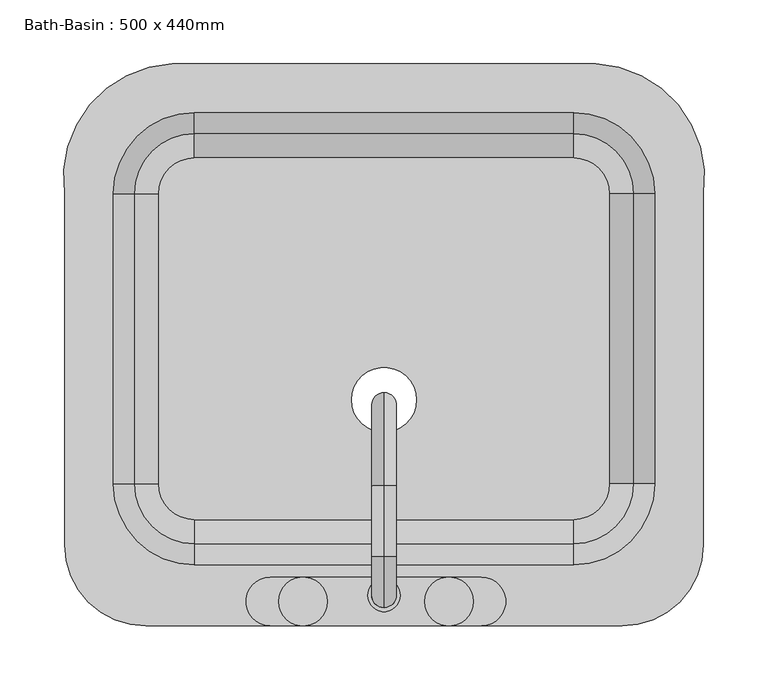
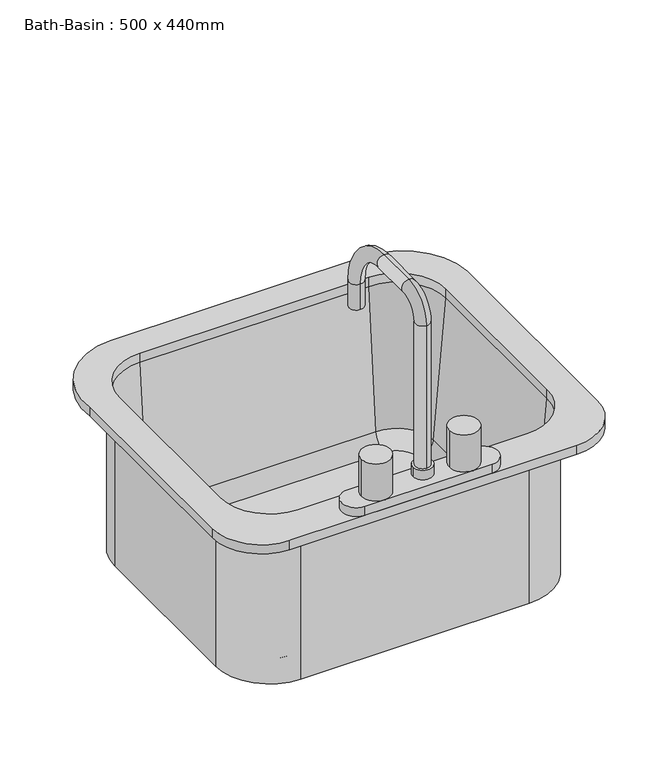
"""IFC4 building model written with IfcOpenShell, lengths in millimetres: flow terminal geometry, Bath-Basin : 500 x 440mm."""

from ifc_helpers import new_model, si_unit, point, frame, origin, place, context, project, spatial, polyline, circle_curve, ellipse_curve, trimmed, source, transform, mapped, element, save
from ifc_brep_helpers import plane_surface, cylinder_surface, revolved_surface, advanced_brep


def bath_basin_500_x_440mm_50045a32(model_context):
    return source(origin(), model_context, "Body", "AdvancedBrep", [
        advanced_brep(
        [(233.9392406, -69.0204011, 546.1), (233.9392406, -69.0204011, 762.0), (164.0892406, -138.8704011, 762.0), (164.0892406, -138.8704011, 546.1), (-132.7107594, -138.8704011, 546.1), (-202.5607594, -69.0204011, 546.1), (-202.5607594, 158.2545989, 546.1), (-132.7107594, 228.1045989, 546.1), (164.0892406, 228.1045989, 546.1), (233.9392406, 158.2545989, 546.1), (-9.7107594, -3.175, 546.1), (41.0892406, -3.175, 546.1), (192.0776588, -69.0204011, 555.625), (192.0776588, 158.2545989, 555.625), (164.0892406, 186.2430171, 555.625), (-132.7107594, 186.2430171, 555.625), (-160.6991776, 158.2545989, 555.625), (-160.6991776, -69.0204011, 555.625), (-132.7107594, -97.0088193, 555.625), (164.0892406, -97.0088193, 555.625), (-9.7107594, -3.175, 555.625), (41.0892406, -3.175, 555.625), (164.0892406, -115.9863283, 573.0146831), (211.0551678, -69.0204011, 573.0146831), (164.0892406, -132.5204011, 762.0), (227.5892406, -69.0204011, 762.0), (233.9392406, 158.2545989, 762.0), (211.0551678, 158.2545989, 573.0146831), (227.5892406, 158.2545989, 762.0), (164.0892406, 228.1045989, 762.0), (164.0892406, 205.2205261, 573.0146831), (164.0892406, 221.7545989, 762.0), (-132.7107594, 228.1045989, 762.0), (-132.7107594, 205.2205261, 573.0146831), (-132.7107594, 221.7545989, 762.0), (-202.5607594, 158.2545989, 762.0), (-179.6766866, 158.2545989, 573.0146831), (-196.2107594, 158.2545989, 762.0), (-202.5607594, -69.0204011, 762.0), (-179.6766866, -69.0204011, 573.0146831), (-196.2107594, -69.0204011, 762.0), (-132.7107594, -138.8704011, 762.0), (-132.7107594, -115.9863283, 573.0146831), (-132.7107594, -132.5204011, 762.0), (-149.9606923, 259.8545989, 774.7), (-234.3107593, 158.2545982, 774.7), (-234.3107593, -116.6454011, 774.7), (-170.8107593, -180.1454011, 774.7), (202.1892406, -180.1454011, 774.7), (265.6892406, -116.6454011, 774.7), (265.6892406, 158.2545989, 774.7), (181.3391735, 259.8545989, 774.7), (164.0892406, -132.5204011, 774.7), (-132.7107594, -132.5204011, 774.7), (-196.2107594, -69.0204011, 774.7), (-196.2107594, 158.2545989, 774.7), (-132.7107594, 221.7545989, 774.7), (164.0892406, 221.7545989, 774.7), (227.5892406, 158.2545989, 774.7), (227.5892406, -69.0204011, 774.7), (-149.9606923, 259.8545989, 762.0), (181.3391735, 259.8545989, 762.0), (265.6892406, 158.2545989, 762.0), (265.6892406, -116.6454011, 762.0), (202.1892406, -180.1454011, 762.0), (-170.8107593, -180.1454011, 762.0), (-234.3107593, -116.6454011, 762.0), (-234.3107593, 158.2545982, 762.0)],
        [
            (0, 1),
            (1, 2, circle_curve(frame((164.0892406, -69.0204011, 762.0), z_axis=(0.0, 0.0, -1.0), x_axis=(0.0, -1.0, 0.0)), 69.85)),
            (2, 3),
            (3, 0, circle_curve(frame((164.0892406, -69.0204011, 546.1), z_axis=(0.0, 0.0, 1.0), x_axis=(0.0, -1.0, 0.0)), 69.85)),
            (3, 4),
            (4, 5, circle_curve(frame((-132.7107594, -69.0204011, 546.1), z_axis=(0.0, 0.0, -1.0), x_axis=(-1.0, 0.0, 0.0)), 69.85)),
            (5, 6),
            (6, 7, circle_curve(frame((-132.7107594, 158.2545989, 546.1), z_axis=(0.0, 0.0, -1.0), x_axis=(0.0, 1.0, 0.0)), 69.85)),
            (7, 8),
            (8, 9, circle_curve(frame((164.0892406, 158.2545989, 546.1), z_axis=(0.0, 0.0, -1.0), x_axis=(1.0, 0.0, 0.0)), 69.85)),
            (9, 0),
            (10, 11, circle_curve(frame((15.6892406, -3.175, 546.1), z_axis=(0.0, 0.0, 1.0), x_axis=(1.0, 0.0, 0.0)), 25.4)),
            (11, 10, circle_curve(frame((15.6892406, -3.175, 546.1), z_axis=(0.0, 0.0, 1.0), x_axis=(1.0, 0.0, 0.0)), 25.4)),
            (12, 13),
            (13, 14, circle_curve(frame((164.0892406, 158.2545989, 555.625), z_axis=(0.0, 0.0, 1.0), x_axis=(1.0, 0.0, 0.0)), 27.9884182)),
            (14, 15),
            (15, 16, circle_curve(frame((-132.7107594, 158.2545989, 555.625), z_axis=(0.0, 0.0, 1.0), x_axis=(0.0, 1.0, 0.0)), 27.9884182)),
            (16, 17),
            (17, 18, circle_curve(frame((-132.7107594, -69.0204011, 555.625), z_axis=(0.0, 0.0, 1.0), x_axis=(-1.0, 0.0, 0.0)), 27.9884182)),
            (18, 19),
            (19, 12, circle_curve(frame((164.0892406, -69.0204011, 555.625), z_axis=(0.0, 0.0, 1.0), x_axis=(0.0, -1.0, 0.0)), 27.9884182)),
            (20, 21, circle_curve(frame((15.6892406, -3.175, 555.625), z_axis=(0.0, 0.0, -1.0), x_axis=(1.0, 0.0, 0.0)), 25.4)),
            (21, 20, circle_curve(frame((15.6892406, -3.175, 555.625), z_axis=(0.0, 0.0, -1.0), x_axis=(1.0, 0.0, 0.0)), 25.4)),
            (19, 22, circle_curve(frame((164.0892406, -97.0088193, 574.675), z_axis=(-1.0, 0.0, 0.0), x_axis=(0.0, -1.0, 0.0)), 19.05)),
            (22, 23, circle_curve(frame((164.0892406, -69.0204011, 573.0146831), z_axis=(0.0, 0.0, 1.0), x_axis=(0.0, -1.0, 0.0)), 46.9659272)),
            (23, 12, circle_curve(frame((192.0776588, -69.0204011, 574.675), z_axis=(0.0, 1.0, 0.0), x_axis=(1.0, 0.0, 0.0)), 19.05)),
            (22, 24),
            (24, 25, circle_curve(frame((164.0892406, -69.0204011, 762.0), z_axis=(0.0, 0.0, 1.0), x_axis=(0.0, -1.0, 0.0)), 63.5)),
            (25, 23),
            (9, 26),
            (26, 1),
            (23, 27),
            (27, 13, circle_curve(frame((192.0776588, 158.2545989, 574.675), z_axis=(0.0, 1.0, 0.0), x_axis=(1.0, 0.0, 0.0)), 19.05)),
            (25, 28),
            (28, 27),
            (8, 29),
            (29, 26, circle_curve(frame((164.0892406, 158.2545989, 762.0), z_axis=(0.0, 0.0, -1.0), x_axis=(1.0, 0.0, 0.0)), 69.85)),
            (27, 30, circle_curve(frame((164.0892406, 158.2545989, 573.0146831), z_axis=(0.0, 0.0, 1.0), x_axis=(1.0, 0.0, 0.0)), 46.9659272)),
            (30, 14, circle_curve(frame((164.0892406, 186.2430171, 574.675), z_axis=(-1.0, 0.0, 0.0), x_axis=(0.0, 1.0, 0.0)), 19.05)),
            (28, 31, circle_curve(frame((164.0892406, 158.2545989, 762.0), z_axis=(0.0, 0.0, 1.0), x_axis=(1.0, 0.0, 0.0)), 63.5)),
            (31, 30),
            (7, 32),
            (32, 29),
            (30, 33),
            (33, 15, circle_curve(frame((-132.7107594, 186.2430171, 574.675), z_axis=(-1.0, 0.0, 0.0), x_axis=(0.0, 1.0, 0.0)), 19.05)),
            (31, 34),
            (34, 33),
            (6, 35),
            (35, 32, circle_curve(frame((-132.7107594, 158.2545989, 762.0), z_axis=(0.0, 0.0, -1.0), x_axis=(0.0, 1.0, 0.0)), 69.85)),
            (33, 36, circle_curve(frame((-132.7107594, 158.2545989, 573.0146831), z_axis=(0.0, 0.0, 1.0), x_axis=(0.0, 1.0, 0.0)), 46.9659272)),
            (36, 16, circle_curve(frame((-160.6991776, 158.2545989, 574.675), z_axis=(0.0, -1.0, 0.0), x_axis=(-1.0, 0.0, 0.0)), 19.05)),
            (34, 37, circle_curve(frame((-132.7107594, 158.2545989, 762.0), z_axis=(0.0, 0.0, 1.0), x_axis=(0.0, 1.0, 0.0)), 63.5)),
            (37, 36),
            (5, 38),
            (38, 35),
            (36, 39),
            (39, 17, circle_curve(frame((-160.6991776, -69.0204011, 574.675), z_axis=(0.0, -1.0, 0.0), x_axis=(-1.0, 0.0, 0.0)), 19.05)),
            (37, 40),
            (40, 39),
            (4, 41),
            (41, 38, circle_curve(frame((-132.7107594, -69.0204011, 762.0), z_axis=(0.0, 0.0, -1.0), x_axis=(-1.0, 0.0, 0.0)), 69.85)),
            (39, 42, circle_curve(frame((-132.7107594, -69.0204011, 573.0146831), z_axis=(0.0, 0.0, 1.0), x_axis=(-1.0, 0.0, 0.0)), 46.9659272)),
            (42, 18, circle_curve(frame((-132.7107594, -97.0088193, 574.675), z_axis=(1.0, 0.0, 0.0), x_axis=(0.0, -1.0, 0.0)), 19.05)),
            (40, 43, circle_curve(frame((-132.7107594, -69.0204011, 762.0), z_axis=(0.0, 0.0, 1.0), x_axis=(-1.0, 0.0, 0.0)), 63.5)),
            (43, 42),
            (2, 41),
            (42, 22),
            (43, 24),
            (21, 11),
            (10, 20),
            (44, 45, circle_curve(frame((-146.1534746, 170.8793432, 774.7), z_axis=(0.0, 0.0, 1.0), x_axis=(1.0, 0.0, 0.0)), 89.0566732)),
            (45, 46),
            (46, 47, circle_curve(frame((-170.8107593, -116.6454011, 774.7), z_axis=(0.0, 0.0, 1.0), x_axis=(1.0, 0.0, 0.0)), 63.5)),
            (47, 48),
            (48, 49, circle_curve(frame((202.1892406, -116.6454011, 774.7), z_axis=(0.0, 0.0, 1.0), x_axis=(1.0, 0.0, 0.0)), 63.5)),
            (49, 50),
            (50, 51, circle_curve(frame((177.5319557, 170.8793432, 774.7), z_axis=(0.0, 0.0, 1.0), x_axis=(1.0, 0.0, 0.0)), 89.0566732)),
            (51, 44),
            (52, 53),
            (53, 54, circle_curve(frame((-132.7107594, -69.0204011, 774.7), z_axis=(0.0, 0.0, -1.0), x_axis=(1.0, 0.0, 0.0)), 63.5)),
            (54, 55),
            (55, 56, circle_curve(frame((-132.7107594, 158.2545989, 774.7), z_axis=(0.0, 0.0, -1.0), x_axis=(1.0, 0.0, 0.0)), 63.5)),
            (56, 57),
            (57, 58, circle_curve(frame((164.0892406, 158.2545989, 774.7), z_axis=(0.0, 0.0, -1.0), x_axis=(1.0, 0.0, 0.0)), 63.5)),
            (58, 59),
            (59, 52, circle_curve(frame((164.0892406, -69.0204011, 774.7), z_axis=(0.0, 0.0, -1.0), x_axis=(1.0, 0.0, 0.0)), 63.5)),
            (60, 61),
            (61, 62, circle_curve(frame((177.5319557, 170.8793432, 762.0), z_axis=(0.0, 0.0, -1.0), x_axis=(1.0, 0.0, 0.0)), 89.0566732)),
            (62, 63),
            (63, 64, circle_curve(frame((202.1892406, -116.6454011, 762.0), z_axis=(0.0, 0.0, -1.0), x_axis=(1.0, 0.0, 0.0)), 63.5)),
            (64, 65),
            (65, 66, circle_curve(frame((-170.8107593, -116.6454011, 762.0), z_axis=(0.0, 0.0, -1.0), x_axis=(1.0, 0.0, 0.0)), 63.5)),
            (66, 67),
            (67, 60, circle_curve(frame((-146.1534746, 170.8793432, 762.0), z_axis=(0.0, 0.0, -1.0), x_axis=(1.0, 0.0, 0.0)), 89.0566732)),
            (51, 61),
            (60, 44),
            (50, 62),
            (49, 63),
            (48, 64),
            (47, 65),
            (46, 66),
            (45, 67),
            (59, 25),
            (24, 52),
            (58, 28),
            (57, 31),
            (56, 34),
            (55, 37),
            (54, 40),
            (53, 43),
        ],
        [
            cylinder_surface(frame((164.0892406, -69.0204011, 0.0), z_axis=(0.0, 0.0, -1.0), x_axis=(0.0, -1.0, 0.0)), 69.85),
            plane_surface(frame((164.0892406, -69.0204011, 546.1), z_axis=(0.0, 0.0, -1.0), x_axis=(0.0, -1.0, 0.0))),
            plane_surface(frame((164.0892406, -69.0204011, 555.625), z_axis=(0.0, 0.0, 1.0), x_axis=(0.0, -1.0, 0.0))),
            revolved_surface(trimmed(ellipse_curve(frame((164.0892406, -97.0088193, 574.675), z_axis=(-1.0, 0.0, 0.0), x_axis=(0.0, -1.0, 0.0)), 19.05, 19.05), [point((164.0892406, -97.0088193, 555.625))], [point((164.0892406, -115.9863283, 573.0146831))], True, "CARTESIAN"), (164.0892406, -69.0204011, 0.0), (0.0, 0.0, -1.0)),
            revolved_surface(polyline([(164.0892406, -115.9863283, 573.0146831), (164.0892406, -132.5204011, 762.0)]), (164.0892406, -69.0204011, 0.0), (0.0, 0.0, -1.0)),
            plane_surface(frame((233.9392406, -69.0204011, 762.0), z_axis=(1.0, 0.0, 0.0), x_axis=(0.0, 1.0, 0.0))),
            revolved_surface(polyline([(211.1276588, 158.25459889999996, 574.675), (211.1276588, -69.0204011, 574.675)]), (192.0776588, -69.0204011, 574.675), (0.0, 1.0, 0.0)),
            plane_surface(frame((211.0551678, -69.0204011, 573.0146831), z_axis=(-0.9961946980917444, 0.0, 0.08715574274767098), x_axis=(0.0, 1.0, 0.0))),
            cylinder_surface(frame((164.0892406, 158.2545989, 0.0), z_axis=(0.0, 0.0, -1.0), x_axis=(1.0, 0.0, 0.0)), 69.85),
            revolved_surface(trimmed(ellipse_curve(frame((192.0776588, 158.2545989, 574.675), z_axis=(0.0, -1.0, 0.0), x_axis=(1.0, 0.0, 0.0)), 19.05, 19.05), [point((192.0776588, 158.2545989, 555.625))], [point((211.0551678, 158.2545989, 573.0146831))], True, "CARTESIAN"), (164.0892406, 158.2545989, 0.0), (0.0, 0.0, -1.0)),
            revolved_surface(polyline([(211.0551678, 158.2545989, 573.0146831), (227.5892406, 158.2545989, 762.0)]), (164.0892406, 158.2545989, 0.0), (0.0, 0.0, -1.0)),
            plane_surface(frame((164.0892406, 228.1045989, 762.0), z_axis=(0.0, 1.0, 0.0), x_axis=(-1.0, 0.0, 0.0))),
            revolved_surface(polyline([(-132.7107594, 205.29301710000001, 574.675), (164.0892406, 205.29301710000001, 574.675)]), (164.0892406, 186.2430171, 574.675), (-1.0, 0.0, 0.0)),
            plane_surface(frame((164.0892406, 205.2205261, 573.0146831), z_axis=(0.0, -0.9961946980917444, 0.08715574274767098), x_axis=(-1.0, 0.0, 0.0))),
            cylinder_surface(frame((-132.7107594, 158.2545989, 0.0), z_axis=(0.0, 0.0, -1.0), x_axis=(0.0, 1.0, 0.0)), 69.85),
            revolved_surface(trimmed(ellipse_curve(frame((-132.7107594, 186.2430171, 574.675), z_axis=(1.0, 0.0, 0.0), x_axis=(0.0, 1.0, 0.0)), 19.05, 19.05), [point((-132.7107594, 186.2430171, 555.625))], [point((-132.7107594, 205.2205261, 573.0146831))], True, "CARTESIAN"), (-132.7107594, 158.2545989, 0.0), (0.0, 0.0, -1.0)),
            revolved_surface(polyline([(-132.7107594, 205.2205261, 573.0146831), (-132.7107594, 221.7545989, 762.0)]), (-132.7107594, 158.2545989, 0.0), (0.0, 0.0, -1.0)),
            plane_surface(frame((-202.5607594, 158.2545989, 762.0), z_axis=(-1.0, 0.0, 0.0), x_axis=(0.0, -1.0, 0.0))),
            revolved_surface(polyline([(-179.74917760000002, -69.02040109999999, 574.675), (-179.74917760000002, 158.2545989, 574.675)]), (-160.6991776, 158.2545989, 574.675), (0.0, -1.0, 0.0)),
            plane_surface(frame((-179.6766866, 158.2545989, 573.0146831), z_axis=(0.9961946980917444, 0.0, 0.08715574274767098), x_axis=(0.0, -1.0, 0.0))),
            cylinder_surface(frame((-132.7107594, -69.0204011, 0.0), z_axis=(0.0, 0.0, -1.0), x_axis=(-1.0, 0.0, 0.0)), 69.85),
            revolved_surface(trimmed(ellipse_curve(frame((-160.6991776, -69.0204011, 574.675), z_axis=(0.0, 1.0, 0.0), x_axis=(-1.0, 0.0, 0.0)), 19.05, 19.05), [point((-160.6991776, -69.0204011, 555.625))], [point((-179.6766866, -69.0204011, 573.0146831))], True, "CARTESIAN"), (-132.7107594, -69.0204011, 0.0), (0.0, 0.0, -1.0)),
            revolved_surface(polyline([(-179.6766866, -69.0204011, 573.0146831), (-196.2107594, -69.0204011, 762.0)]), (-132.7107594, -69.0204011, 0.0), (0.0, 0.0, -1.0)),
            plane_surface(frame((-132.7107594, -138.8704011, 762.0), z_axis=(0.0, -1.0, 0.0), x_axis=(1.0, 0.0, 0.0))),
            revolved_surface(polyline([(164.0892406, -116.0588193, 574.675), (-132.7107594, -116.0588193, 574.675)]), (-132.7107594, -97.0088193, 574.675), (1.0, 0.0, 0.0)),
            plane_surface(frame((-132.7107594, -115.9863283, 573.0146831), z_axis=(0.0, 0.9961946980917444, 0.08715574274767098), x_axis=(1.0, 0.0, 0.0))),
            revolved_surface(polyline([(41.0892406, -3.175, 546.1), (41.0892406, -3.175, 555.625)]), (15.6892406, -3.175, 0.0), (0.0, 0.0, -1.0)),
            plane_surface(frame((181.3391735, 259.8545989, 774.7), z_axis=(0.0, 0.0, 1.0), x_axis=(1.0, 0.0, 0.0))),
            plane_surface(frame((181.3391735, 259.8545989, 762.0), z_axis=(0.0, 0.0, -1.0), x_axis=(-1.0, 0.0, 0.0))),
            plane_surface(frame((-149.9606923, 259.8545989, 774.7), z_axis=(0.0, 1.0, 0.0), x_axis=(0.0, 0.0, -1.0))),
            cylinder_surface(frame((177.5319557, 170.8793432, 762.0), z_axis=(0.0, 0.0, 1.0), x_axis=(1.0, 0.0, 0.0)), 89.0566732),
            plane_surface(frame((265.6892406, 158.2545989, 774.7), z_axis=(1.0, 0.0, 0.0), x_axis=(0.0, 0.0, -1.0))),
            cylinder_surface(frame((202.1892406, -116.6454011, 762.0), z_axis=(0.0, 0.0, 1.0), x_axis=(1.0, 0.0, 0.0)), 63.5),
            plane_surface(frame((202.1892406, -180.1454011, 774.7), z_axis=(0.0, -1.0, 0.0), x_axis=(0.0, 0.0, -1.0))),
            cylinder_surface(frame((-170.8107593, -116.6454011, 762.0), z_axis=(0.0, 0.0, 1.0), x_axis=(1.0, 0.0, 0.0)), 63.5),
            plane_surface(frame((-234.3107593, -116.6454011, 774.7), z_axis=(-1.0, 0.0, 0.0), x_axis=(0.0, 0.0, -1.0))),
            cylinder_surface(frame((-146.1534746, 170.8793432, 762.0), z_axis=(0.0, 0.0, 1.0), x_axis=(1.0, 0.0, 0.0)), 89.0566732),
            revolved_surface(polyline([(227.5892406, -69.0204011, 762.0), (227.5892406, -69.0204011, 774.7)]), (164.0892406, -69.0204011, 0.0), (0.0, 0.0, -1.0)),
            plane_surface(frame((227.5892406, -69.0204011, 774.7), z_axis=(-1.0, 0.0, 0.0), x_axis=(0.0, 0.0, -1.0))),
            revolved_surface(polyline([(227.5892406, 158.2545989, 762.0), (227.5892406, 158.2545989, 774.7)]), (164.0892406, 158.2545989, 0.0), (0.0, 0.0, -1.0)),
            plane_surface(frame((164.0892406, 221.7545989, 774.7), z_axis=(0.0, -1.0, 0.0), x_axis=(0.0, 0.0, -1.0))),
            revolved_surface(polyline([(-69.2107594, 158.2545989, 762.0), (-69.2107594, 158.2545989, 774.7)]), (-132.7107594, 158.2545989, 0.0), (0.0, 0.0, -1.0)),
            plane_surface(frame((-196.2107594, 158.2545989, 774.7), z_axis=(1.0, 0.0, 0.0), x_axis=(0.0, 0.0, -1.0))),
            revolved_surface(polyline([(-69.2107594, -69.0204011, 762.0), (-69.2107594, -69.0204011, 774.7)]), (-132.7107594, -69.0204011, 0.0), (0.0, 0.0, -1.0)),
            plane_surface(frame((-132.7107594, -132.5204011, 774.7), z_axis=(0.0, 1.0, 0.0), x_axis=(0.0, 0.0, -1.0))),
        ],
        [
            (0, [[1, 2, 3, 4]]),
            (1, [[5, 6, 7, 8, 9, 10, 11, -4], [12, 13]]),
            (2, [[14, 15, 16, 17, 18, 19, 20, 21], [22, 23]]),
            (3, [[24, 25, 26, -21]]),
            (4, [[27, 28, 29, -25]]),
            (5, [[-11, 30, 31, -1]]),
            (6, [[32, 33, -14, -26]]),
            (7, [[34, 35, -32, -29]]),
            (8, [[-10, 36, 37, -30]]),
            (9, [[38, 39, -15, -33]]),
            (10, [[40, 41, -38, -35]]),
            (11, [[-9, 42, 43, -36]]),
            (12, [[44, 45, -16, -39]]),
            (13, [[46, 47, -44, -41]]),
            (14, [[-8, 48, 49, -42]]),
            (15, [[50, 51, -17, -45]]),
            (16, [[52, 53, -50, -47]]),
            (17, [[-7, 54, 55, -48]]),
            (18, [[56, 57, -18, -51]]),
            (19, [[58, 59, -56, -53]]),
            (20, [[-6, 60, 61, -54]]),
            (21, [[62, 63, -19, -57]]),
            (22, [[64, 65, -62, -59]]),
            (23, [[66, -60, -5, -3]]),
            (24, [[-20, -63, 67, -24]]),
            (25, [[-67, -65, 68, -27]]),
            (26, [[69, -12, 70, -23]]),
            (26, [[-70, -13, -69, -22]]),
            (27, [[71, 72, 73, 74, 75, 76, 77, 78], [79, 80, 81, 82, 83, 84, 85, 86]]),
            (28, [[87, 88, 89, 90, 91, 92, 93, 94], [-31, -37, -43, -49, -55, -61, -66, -2]]),
            (29, [[95, -87, 96, -78]]),
            (30, [[97, -88, -95, -77]]),
            (31, [[98, -89, -97, -76]]),
            (32, [[99, -90, -98, -75]]),
            (33, [[100, -91, -99, -74]]),
            (34, [[101, -92, -100, -73]]),
            (35, [[102, -93, -101, -72]]),
            (36, [[-96, -94, -102, -71]]),
            (37, [[103, -28, 104, -86]]),
            (38, [[105, -34, -103, -85]]),
            (39, [[106, -40, -105, -84]]),
            (40, [[107, -46, -106, -83]]),
            (41, [[108, -52, -107, -82]]),
            (42, [[109, -58, -108, -81]]),
            (43, [[110, -64, -109, -80]]),
            (44, [[-104, -68, -110, -79]]),
        ],
    ),
        advanced_brep(
        [(91.8892406, -180.1454011, 774.7), (66.4892406, -180.1454011, 774.7), (-47.8107594, -180.1454011, 774.7), (-73.2107594, -180.1454011, 774.7), (-73.2107594, -142.0454011, 774.7), (-47.8107594, -142.0454011, 774.7), (66.4892406, -142.0454011, 774.7), (91.8892406, -142.0454011, 774.7), (15.6892406, -165.8579011, 995.3625), (15.6892406, -165.8579011, 800.1), (15.6892406, -146.8079011, 800.1), (15.6892406, -146.8079011, 995.3625), (15.6892406, -126.1704011, 1016.0), (15.6892406, -126.1704011, 1035.05), (15.6892406, -70.6079011, 1016.0), (15.6892406, -70.6079011, 1035.05), (15.6892406, -16.6329011, 962.025), (15.6892406, 2.4170989, 962.025), (15.6892406, 2.4170989, 927.1), (15.6892406, -16.6329011, 927.1), (2.9892406, -156.3329011, 800.1), (28.3892406, -156.3329011, 800.1), (28.3892406, -156.3329011, 787.2), (2.9892406, -156.3329011, 787.2), (-73.2107594, -180.1454011, 787.2), (-47.8107594, -180.1454011, 787.2), (-66.8607594, -161.0954011, 787.2), (-47.8107594, -142.0454011, 787.2), (-73.2107594, -142.0454011, 787.2), (91.8892406, -142.0454011, 787.2), (66.4892406, -142.0454011, 787.2), (85.5392406, -161.0954011, 787.2), (66.4892406, -180.1454011, 787.2), (91.8892406, -180.1454011, 787.2), (47.4392406, -161.0954011, 787.2), (-28.7607594, -161.0954011, 787.2), (-66.8607594, -161.0954011, 838.2), (-28.7607594, -161.0954011, 838.2), (47.4392406, -161.0954011, 838.2), (85.5392406, -161.0954011, 838.2)],
        [
            (0, 1),
            (1, 2),
            (2, 3),
            (3, 4, circle_curve(frame((-73.2107594, -161.0954011, 774.7), z_axis=(0.0, 0.0, -1.0), x_axis=(1.0, 0.0, 0.0)), 19.05)),
            (4, 5),
            (5, 6),
            (6, 7),
            (7, 0, circle_curve(frame((91.8892406, -161.0954011, 774.7), z_axis=(0.0, 0.0, -1.0), x_axis=(1.0, 0.0, 0.0)), 19.05)),
            (8, 9),
            (9, 10, circle_curve(frame((15.6892406, -156.3329011, 800.1), z_axis=(0.0, 0.0, 1.0), x_axis=(0.0, 1.0, 0.0)), 9.525)),
            (10, 11),
            (11, 8, circle_curve(frame((15.6892406, -156.3329011, 995.3625), z_axis=(0.0, 0.0, -1.0), x_axis=(0.0, 1.0, 0.0)), 9.525)),
            (10, 9, circle_curve(frame((15.6892406, -156.3329011, 800.1), z_axis=(0.0, 0.0, 1.0), x_axis=(0.0, 1.0, 0.0)), 9.525)),
            (8, 11, circle_curve(frame((15.6892406, -156.3329011, 995.3625), z_axis=(0.0, 0.0, -1.0), x_axis=(0.0, 1.0, 0.0)), 9.525)),
            (11, 12, circle_curve(frame((15.6892406, -126.1704011, 995.3625), z_axis=(-1.0, 0.0, 0.0), x_axis=(0.0, -1.0, 0.0)), 20.6375)),
            (12, 13, circle_curve(frame((15.6892406, -126.1704011, 1025.525), z_axis=(0.0, -1.0, 0.0), x_axis=(0.0, 0.0, -1.0)), 9.525)),
            (13, 8, circle_curve(frame((15.6892406, -126.1704011, 995.3625), z_axis=(1.0, 0.0, 0.0), x_axis=(0.0, -1.0, 0.0)), 39.6875)),
            (13, 12, circle_curve(frame((15.6892406, -126.1704011, 1025.525), z_axis=(0.0, -1.0, 0.0), x_axis=(0.0, 0.0, -1.0)), 9.525)),
            (12, 14),
            (14, 15, circle_curve(frame((15.6892406, -70.6079011, 1025.525), z_axis=(0.0, -1.0, 0.0), x_axis=(0.0, 0.0, -1.0)), 9.525)),
            (15, 13),
            (15, 14, circle_curve(frame((15.6892406, -70.6079011, 1025.525), z_axis=(0.0, -1.0, 0.0), x_axis=(0.0, 0.0, -1.0)), 9.525)),
            (14, 16, circle_curve(frame((15.6892406, -70.6079011, 962.025), z_axis=(-1.0, 0.0, 0.0), x_axis=(0.0, 0.0, 1.0)), 53.975)),
            (16, 17, circle_curve(frame((15.6892406, -7.1079011, 962.025), z_axis=(0.0, 0.0, 1.0), x_axis=(0.0, -1.0, 0.0)), 9.525)),
            (17, 15, circle_curve(frame((15.6892406, -70.6079011, 962.025), z_axis=(1.0, 0.0, 0.0), x_axis=(0.0, 0.0, 1.0)), 73.025)),
            (17, 16, circle_curve(frame((15.6892406, -7.1079011, 962.025), z_axis=(0.0, 0.0, 1.0), x_axis=(0.0, -1.0, 0.0)), 9.525)),
            (18, 19, circle_curve(frame((15.6892406, -7.1079011, 927.1), z_axis=(0.0, 0.0, -1.0), x_axis=(0.0, -1.0, 0.0)), 9.525)),
            (19, 18, circle_curve(frame((15.6892406, -7.1079011, 927.1), z_axis=(0.0, 0.0, -1.0), x_axis=(0.0, -1.0, 0.0)), 9.525)),
            (16, 19),
            (18, 17),
            (20, 21, circle_curve(frame((15.6892406, -156.3329011, 800.1), z_axis=(0.0, 0.0, 1.0), x_axis=(1.0, 0.0, 0.0)), 12.7)),
            (21, 20, circle_curve(frame((15.6892406, -156.3329011, 800.1), z_axis=(0.0, 0.0, 1.0), x_axis=(1.0, 0.0, 0.0)), 12.7)),
            (21, 22),
            (22, 23, circle_curve(frame((15.6892406, -156.3329011, 787.2), z_axis=(0.0, 0.0, 1.0), x_axis=(1.0, 0.0, 0.0)), 12.7)),
            (23, 20),
            (23, 22, circle_curve(frame((15.6892406, -156.3329011, 787.2), z_axis=(0.0, 0.0, 1.0), x_axis=(1.0, 0.0, 0.0)), 12.7)),
            (24, 25),
            (25, 26, circle_curve(frame((-47.8107594, -161.0954011, 787.2), z_axis=(0.0, 0.0, -1.0), x_axis=(1.0, 0.0, 0.0)), 19.05)),
            (26, 27, circle_curve(frame((-47.8107594, -161.0954011, 787.2), z_axis=(0.0, 0.0, -1.0), x_axis=(1.0, 0.0, 0.0)), 19.05)),
            (27, 28),
            (28, 24, circle_curve(frame((-73.2107594, -161.0954011, 787.2), z_axis=(0.0, 0.0, 1.0), x_axis=(1.0, 0.0, 0.0)), 19.05)),
            (29, 30),
            (30, 31, circle_curve(frame((66.4892406, -161.0954011, 787.2), z_axis=(0.0, 0.0, -1.0), x_axis=(1.0, 0.0, 0.0)), 19.05)),
            (31, 32, circle_curve(frame((66.4892406, -161.0954011, 787.2), z_axis=(0.0, 0.0, -1.0), x_axis=(1.0, 0.0, 0.0)), 19.05)),
            (32, 33),
            (33, 29, circle_curve(frame((91.8892406, -161.0954011, 787.2), z_axis=(0.0, 0.0, 1.0), x_axis=(1.0, 0.0, 0.0)), 19.05)),
            (32, 34, circle_curve(frame((66.4892406, -161.0954011, 787.2), z_axis=(0.0, 0.0, -1.0), x_axis=(1.0, 0.0, 0.0)), 19.05)),
            (34, 30, circle_curve(frame((66.4892406, -161.0954011, 787.2), z_axis=(0.0, 0.0, -1.0), x_axis=(1.0, 0.0, 0.0)), 19.05)),
            (30, 27),
            (27, 35, circle_curve(frame((-47.8107594, -161.0954011, 787.2), z_axis=(0.0, 0.0, -1.0), x_axis=(1.0, 0.0, 0.0)), 19.05)),
            (35, 25, circle_curve(frame((-47.8107594, -161.0954011, 787.2), z_axis=(0.0, 0.0, -1.0), x_axis=(1.0, 0.0, 0.0)), 19.05)),
            (25, 32),
            (24, 3),
            (0, 33),
            (28, 4),
            (29, 7),
            (36, 37, circle_curve(frame((-47.8107594, -161.0954011, 838.2), z_axis=(0.0, 0.0, 1.0), x_axis=(1.0, 0.0, 0.0)), 19.05)),
            (37, 36, circle_curve(frame((-47.8107594, -161.0954011, 838.2), z_axis=(0.0, 0.0, 1.0), x_axis=(1.0, 0.0, 0.0)), 19.05)),
            (38, 39, circle_curve(frame((66.4892406, -161.0954011, 838.2), z_axis=(0.0, 0.0, 1.0), x_axis=(1.0, 0.0, 0.0)), 19.05)),
            (39, 38, circle_curve(frame((66.4892406, -161.0954011, 838.2), z_axis=(0.0, 0.0, 1.0), x_axis=(1.0, 0.0, 0.0)), 19.05)),
            (37, 35),
            (26, 36),
            (39, 31),
            (34, 38),
        ],
        [
            plane_surface(frame((15.6892406, -146.8079011, 774.7), z_axis=(0.0, 0.0, -1.0), x_axis=(1.0, 0.0, 0.0))),
            cylinder_surface(frame((15.6892406, -156.3329011, 774.7), z_axis=(0.0, 0.0, -1.0), x_axis=(0.0, 1.0, 0.0)), 9.525),
            revolved_surface(trimmed(ellipse_curve(frame((15.6892406, -156.3329011, 995.3625), z_axis=(0.0, 0.0, 1.0), x_axis=(0.0, 1.0, 0.0)), 9.525, 9.525), [point((15.6892406, -165.8579011, 995.3625))], [point((15.6892406, -146.8079011, 995.3625))], True, "CARTESIAN"), (15.6892406, -126.1704011, 995.3625), (1.0, 0.0, 0.0)),
            revolved_surface(trimmed(ellipse_curve(frame((15.6892406, -156.3329011, 995.3625), z_axis=(0.0, 0.0, 1.0), x_axis=(0.0, 1.0, 0.0)), 9.525, 9.525), [point((15.6892406, -146.8079011, 995.3625))], [point((15.6892406, -165.8579011, 995.3625))], True, "CARTESIAN"), (15.6892406, -126.1704011, 995.3625), (1.0, 0.0, 0.0)),
            cylinder_surface(frame((15.6892406, -126.1704011, 1025.525), z_axis=(0.0, -1.0, 0.0), x_axis=(0.0, 0.0, -1.0)), 9.525),
            revolved_surface(trimmed(ellipse_curve(frame((15.6892406, -70.6079011, 1025.525), z_axis=(0.0, 1.0, 0.0), x_axis=(0.0, 0.0, -1.0)), 9.525, 9.525), [point((15.6892406, -70.6079011, 1035.05))], [point((15.6892406, -70.6079011, 1016.0))], True, "CARTESIAN"), (15.6892406, -70.6079011, 962.025), (1.0, 0.0, 0.0)),
            revolved_surface(trimmed(ellipse_curve(frame((15.6892406, -70.6079011, 1025.525), z_axis=(0.0, 1.0, 0.0), x_axis=(0.0, 0.0, -1.0)), 9.525, 9.525), [point((15.6892406, -70.6079011, 1016.0))], [point((15.6892406, -70.6079011, 1035.05))], True, "CARTESIAN"), (15.6892406, -70.6079011, 962.025), (1.0, 0.0, 0.0)),
            plane_surface(frame((15.6892406, 2.4170989, 927.1), z_axis=(0.0, 0.0, -1.0), x_axis=(-1.0, 0.0, 0.0))),
            cylinder_surface(frame((15.6892406, -7.1079011, 962.025), z_axis=(0.0, 0.0, 1.0), x_axis=(0.0, -1.0, 0.0)), 9.525),
            plane_surface(frame((28.3892406, -156.3329011, 800.1), z_axis=(0.0, 0.0, 1.0), x_axis=(0.0, -1.0, 0.0))),
            cylinder_surface(frame((15.6892406, -156.3329011, 774.7), z_axis=(0.0, 0.0, 1.0), x_axis=(1.0, 0.0, 0.0)), 12.7),
            plane_surface(frame((-73.2107594, -180.1454011, 787.2), z_axis=(0.0, 0.0, 1.0), x_axis=(-1.0, 0.0, 0.0))),
            plane_surface(frame((91.8892406, -180.1454011, 787.2), z_axis=(0.0, -1.0, 0.0), x_axis=(0.0, 0.0, -1.0))),
            cylinder_surface(frame((-73.2107594, -161.0954011, 774.7), z_axis=(0.0, 0.0, 1.0), x_axis=(1.0, 0.0, 0.0)), 19.05),
            plane_surface(frame((-73.2107594, -142.0454011, 787.2), z_axis=(0.0, 1.0, 0.0), x_axis=(0.0, 0.0, -1.0))),
            cylinder_surface(frame((91.8892406, -161.0954011, 774.7), z_axis=(0.0, 0.0, 1.0), x_axis=(1.0, 0.0, 0.0)), 19.05),
            plane_surface(frame((-28.7607594, -161.0954011, 838.2), z_axis=(0.0, 0.0, 1.0), x_axis=(0.0, -1.0, 0.0))),
            cylinder_surface(frame((-47.8107594, -161.0954011, 774.7), z_axis=(0.0, 0.0, 1.0), x_axis=(1.0, 0.0, 0.0)), 19.05),
            cylinder_surface(frame((66.4892406, -161.0954011, 0.0), z_axis=(0.0, 0.0, 1.0), x_axis=(1.0, 0.0, 0.0)), 19.05),
        ],
        [
            (0, [[1, 2, 3, 4, 5, 6, 7, 8]]),
            (1, [[9, 10, 11, 12]]),
            (1, [[-11, 13, -9, 14]]),
            (2, [[15, 16, 17, -12]]),
            (3, [[-17, 18, -15, -14]]),
            (4, [[19, 20, 21, -16]]),
            (4, [[-21, 22, -19, -18]]),
            (5, [[23, 24, 25, -20]]),
            (6, [[-25, 26, -23, -22]]),
            (7, [[27, 28]]),
            (8, [[29, -27, 30, -24]]),
            (8, [[-30, -28, -29, -26]]),
            (9, [[31, 32], [-13, -10]]),
            (10, [[33, 34, 35, -32]]),
            (10, [[-35, 36, -33, -31]]),
            (11, [[37, 38, 39, 40, 41]]),
            (11, [[42, 43, 44, 45, 46]]),
            (11, [[47, 48, 49, 50, 51, 52], [-36, -34]]),
            (12, [[-45, -52, -37, 53, -3, -2, -1, 54]]),
            (13, [[55, -4, -53, -41]]),
            (14, [[-40, -49, -42, 56, -7, -6, -5, -55]]),
            (15, [[-54, -8, -56, -46]]),
            (16, [[57, 58]]),
            (16, [[59, 60]]),
            (17, [[61, -50, -39, 62, -58]]),
            (17, [[-62, -38, -51, -61, -57]]),
            (18, [[63, -43, -48, 64, -60]]),
            (18, [[-64, -47, -44, -63, -59]]),
        ],
    ),
    ])


if __name__ == "__main__":
    model = new_model("IFC4")
    model_context = context("Model", 3, world=origin())
    ifc_project = project(units=[si_unit("LENGTHUNIT", "METRE", prefix="MILLI")], contexts=[model_context])
    site = spatial("IfcSite", under=ifc_project)
    building = spatial("IfcBuilding", under=site)
    placement = place(None, origin())
    bath_basin_500_x_440mm_shape = bath_basin_500_x_440mm_50045a32(model_context)
    element("IfcFlowTerminal", 1, ObjectType="Bath-Basin : 500 x 440mm", at=placement, inside=building, context=model_context, shape_type="MappedRepresentation", body=[
        mapped(bath_basin_500_x_440mm_shape, transform((0.0, 0.0, 0.0), x_axis=(1.0, 0.0, 0.0), y_axis=(0.0, 1.0, 0.0), z_axis=(0.0, 0.0, 1.0))),
    ])
    save(model, "model.ifc")
